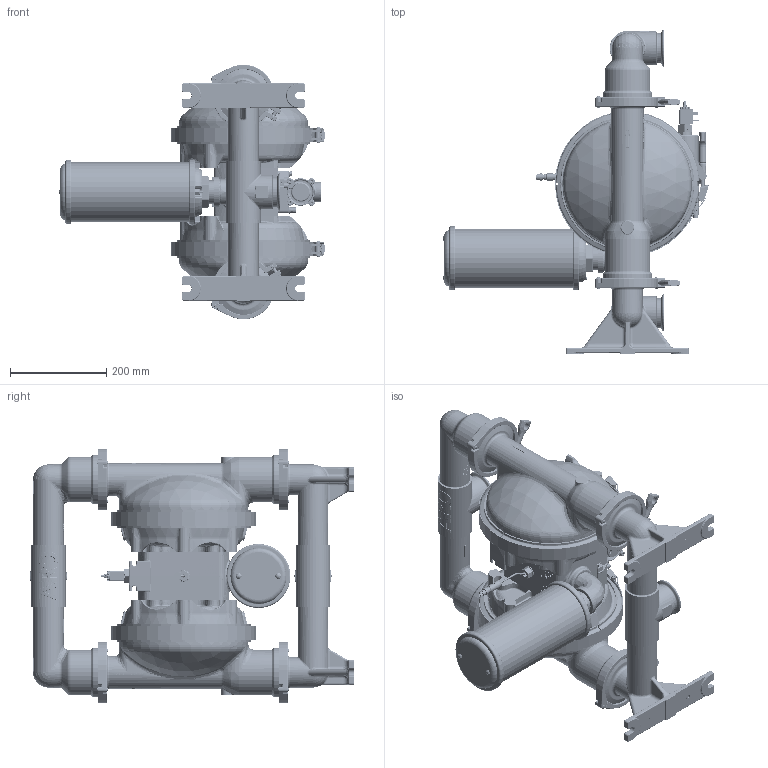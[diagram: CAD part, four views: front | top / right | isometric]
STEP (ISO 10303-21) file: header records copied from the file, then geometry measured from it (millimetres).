
FILE_DESCRIPTION(/* description */ (''),/* implementation_level */ '2;1');
FILE_NAME(/* name */ 'SD20X-XXX-XXX-BXXX_A',/* time_stamp */ '2016-02-25T09:59:12-05:00',/* author */ (''),/* organization */ (''),/* preprocessor_version */ 'ST-DEVELOPER v9',/* originating_system */ 'UGS - NX 4.0',/* authorisation */ '');
FILE_SCHEMA (('CONFIG_CONTROL_DESIGN'));
Length unit declared in the file: millimetre
Products named in the file (1): szeeB79F3vq8
Bounding box: 554.54 x 676.2 x 530.38 mm (x, y, z)
Volume: 30282843.8 mm3; surface area: 1564374.8 mm2
Topology: 8 solids, 10 shells, 11987 faces, 32094 edges, 20360 vertices
Faces by surface type: plane 7560, cylinder 1546, bspline 1072, torus 806, extrusion 428, cone 374, sphere 201
Full cylindrical faces by diameter (mm): 118.92 x2, 286.445 x2
Entity records: 452333 total; most frequent: CARTESIAN_POINT 164472, ORIENTED_EDGE 63812, DIRECTION 53702, EDGE_CURVE 31906, VECTOR 22330, LINE 21902, VERTEX_POINT 20349, AXIS2_PLACEMENT_3D 15686
